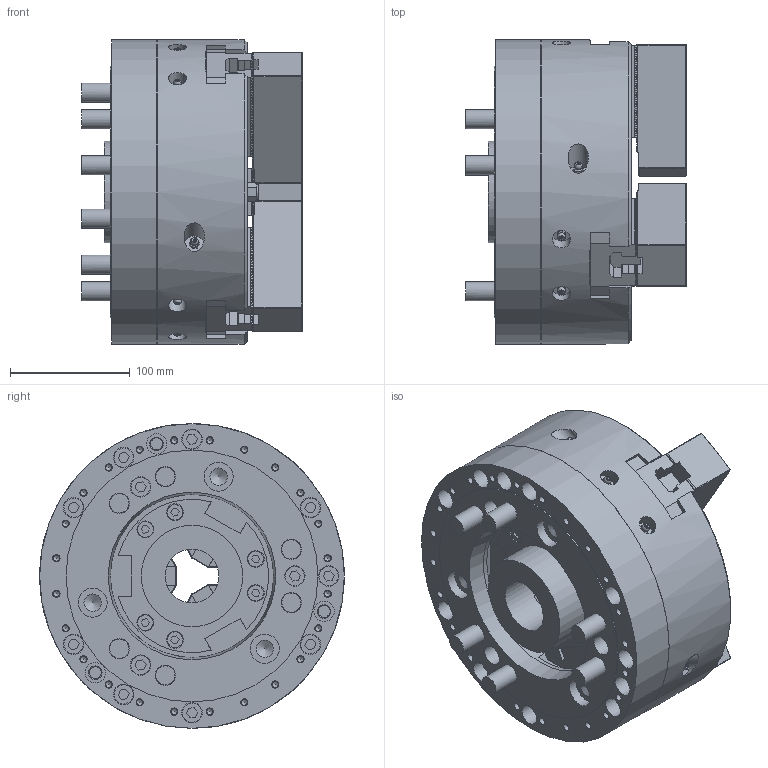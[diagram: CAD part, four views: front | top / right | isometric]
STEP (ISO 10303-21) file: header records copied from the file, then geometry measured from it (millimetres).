
FILE_DESCRIPTION (( 'STEP AP214' ), '1' );
FILE_NAME ('HOH-10K_OC.STEP', '2020-03-06T04:51:44', ( '' ), ( '' ), 'SwSTEP 2.0', 'SolidWorks 2017', '' );
FILE_SCHEMA (( 'AUTOMOTIVE_DESIGN' ));
Length unit declared in the file: millimetre
Products named in the file (18): 61P400852_TNUT; P31633_SOFT JAW; 俛傾僫僣僉 M12x3512x35_B迸路 M12X3512X35; 俛傾僫僣僉 M12x3512x35; HOH-10K_OC; Part1^61P211221_HOH-10K_ASSY_蹬怮椔; P31633_SOFT JAW_蹬怮椔; Part1^61P211221_HOH-10K_ASSY; 61P400852_TNUT_蹬怮椔
Assembly tree (13 placements, depth 2):
  61P400852_TNUT
  P31633_SOFT JAW
  61P400852_TNUT
  俛傾僫僣僉 M12x3512x35
  HOH-10K_OC
    61P400852_TNUT_蹬怮椔  x3
    P31633_SOFT JAW_蹬怮椔  x3
    俛傾僫僣僉 M12x3512x35_B迸路 M12X3512X35  x6
    Part1^61P211221_HOH-10K_ASSY_蹬怮椔
Bounding box: 184.2 x 254 x 254 mm (x, y, z)
Volume: 5508479.2 mm3; surface area: 541290.8 mm2
Topology: 13 solids, 37 shells, 3426 faces, 9440 edges, 6275 vertices
Faces by surface type: plane 2976, cylinder 312, cone 111, sphere 18, torus 9
Full cylindrical faces by diameter (mm): 1.5 x6, 1.9 x9, 4 x6, 5 x30, 6 x36, 6.1 x6, 10 x12, 11 x9, 12 x18, 13 x12, 14 x6, 15 x6, 16 x24, 17 x24, 18 x6, 19 x6, 24 x6, 24.2 x3, 25 x6, 45 x1, 65 x2, 70 x1, 76.4 x1, 84.5 x1, 136 x1, 210 x1, 254 x2
Entity records: 77546 total; most frequent: CARTESIAN_POINT 15188, ORIENTED_EDGE 12708, DIRECTION 12109, EDGE_CURVE 6354, LINE 5437, VECTOR 5437, VERTEX_POINT 4391, AXIS2_PLACEMENT_3D 3336
